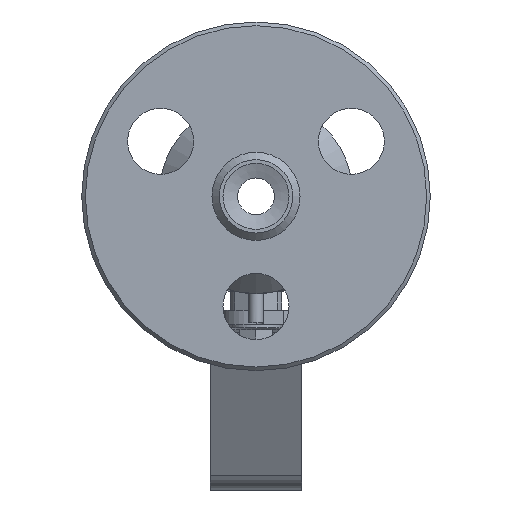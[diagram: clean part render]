
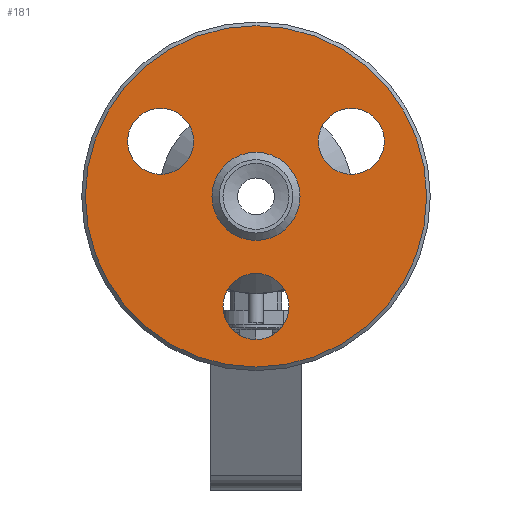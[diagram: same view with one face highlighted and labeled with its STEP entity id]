
A CAD part, left-side view. The second image highlights one B-rep face of the part: STEP entity #181.
In plain terms, the highlighted planar face has unit normal (-1, 0, 0).
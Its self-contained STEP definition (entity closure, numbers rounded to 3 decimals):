
#181=ADVANCED_FACE('',(#1463,#1465,#1467,#1469,#1471),#1473,.T.);
#1463=FACE_BOUND('',#1464,.T.);
#1464=EDGE_LOOP('',(#2395));
#1465=FACE_BOUND('',#1466,.T.);
#1466=EDGE_LOOP('',(#2396));
#1467=FACE_BOUND('',#1468,.T.);
#1468=EDGE_LOOP('',(#2397));
#1469=FACE_BOUND('',#1470,.T.);
#1470=EDGE_LOOP('',(#2398));
#1471=FACE_OUTER_BOUND('',#1472,.T.);
#1472=EDGE_LOOP('',(#2399));
#1473=PLANE('',#1474);
#1474=AXIS2_PLACEMENT_3D('',#1475,#1476,#1477);
#1475=CARTESIAN_POINT('',(-74.966,0.,0.));
#1476=DIRECTION('',(-1.,0.,0.));
#1477=DIRECTION('',(0.,0.,-1.));
#2395=ORIENTED_EDGE('',*,*,#3395,.T.);
#2396=ORIENTED_EDGE('',*,*,#3396,.T.);
#2397=ORIENTED_EDGE('',*,*,#3397,.T.);
#2398=ORIENTED_EDGE('',*,*,#3361,.T.);
#2399=ORIENTED_EDGE('',*,*,#3398,.F.);
#3361=EDGE_CURVE('',#3769,#3769,#3771,.T.);
#3395=EDGE_CURVE('',#3826,#3826,#3827,.F.);
#3396=EDGE_CURVE('',#3828,#3828,#3829,.F.);
#3397=EDGE_CURVE('',#3830,#3830,#3831,.F.);
#3398=EDGE_CURVE('',#3832,#3832,#3833,.T.);
#3769=VERTEX_POINT('',#5628);
#3771=CIRCLE('',#5632,12.);
#3826=VERTEX_POINT('',#5896);
#3827=CIRCLE('',#5897,9.);
#3828=VERTEX_POINT('',#5901);
#3829=CIRCLE('',#5902,9.);
#3830=VERTEX_POINT('',#5906);
#3831=CIRCLE('',#5907,9.);
#3832=VERTEX_POINT('',#5911);
#3833=CIRCLE('',#5912,46.5);
#5628=CARTESIAN_POINT('',(-74.966,0.,12.));
#5632=AXIS2_PLACEMENT_3D('',#5633,#5634,#5635);
#5633=CARTESIAN_POINT('',(-74.966,0.,0.));
#5634=DIRECTION('',(1.,0.,0.));
#5635=DIRECTION('',(0.,0.,1.));
#5896=CARTESIAN_POINT('',(-74.966,-9.,-30.));
#5897=AXIS2_PLACEMENT_3D('',#5898,#5899,#5900);
#5898=CARTESIAN_POINT('',(-74.966,0.,-30.));
#5899=DIRECTION('',(-1.,0.,0.));
#5900=DIRECTION('',(0.,-1.,0.));
#5901=CARTESIAN_POINT('',(-74.966,-21.481,22.794));
#5902=AXIS2_PLACEMENT_3D('',#5903,#5904,#5905);
#5903=CARTESIAN_POINT('',(-74.966,-25.981,15.));
#5904=DIRECTION('',(-1.,0.,0.));
#5905=DIRECTION('',(0.,0.5,0.866));
#5906=CARTESIAN_POINT('',(-74.966,30.481,7.206));
#5907=AXIS2_PLACEMENT_3D('',#5908,#5909,#5910);
#5908=CARTESIAN_POINT('',(-74.966,25.981,15.));
#5909=DIRECTION('',(-1.,0.,0.));
#5910=DIRECTION('',(0.,0.5,-0.866));
#5911=CARTESIAN_POINT('',(-74.966,0.,-46.5));
#5912=AXIS2_PLACEMENT_3D('',#5913,#5914,#5915);
#5913=CARTESIAN_POINT('',(-74.966,0.,0.));
#5914=DIRECTION('',(1.,0.,0.));
#5915=DIRECTION('',(0.,0.,-1.));
